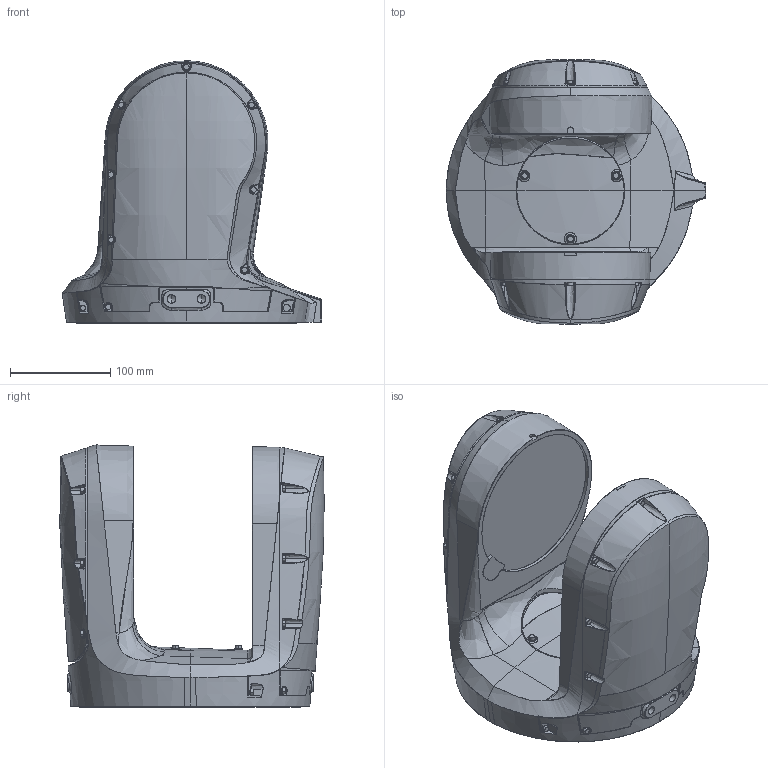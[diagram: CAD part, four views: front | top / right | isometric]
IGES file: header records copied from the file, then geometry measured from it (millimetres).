
Start section: SolidWorks IGES file using analytic representation for surfaces
Global section: file name: C:\Users\CNSHAN\Desktop\IRB1200H Light Weight Model\IRB1200H_7-70_IRC5_rev0_joints\IRB1200H_7-705-90_IRC5_Link1_rev0.igs; native system: SolidWorks 2020; preprocessor: SolidWorks 2020; author: CNSHAN; date: 220117.163521; units: millimetre
Bounding box: 258.82 x 263.33 x 261.43 mm (x, y, z)
Surface area: 289100.8 mm2 (no closed solid volume)
Topology: 0 solids, 0 shells, 753 faces, 11177 edges, 11160 vertices
Faces by surface type: bspline 543, revolution 210
